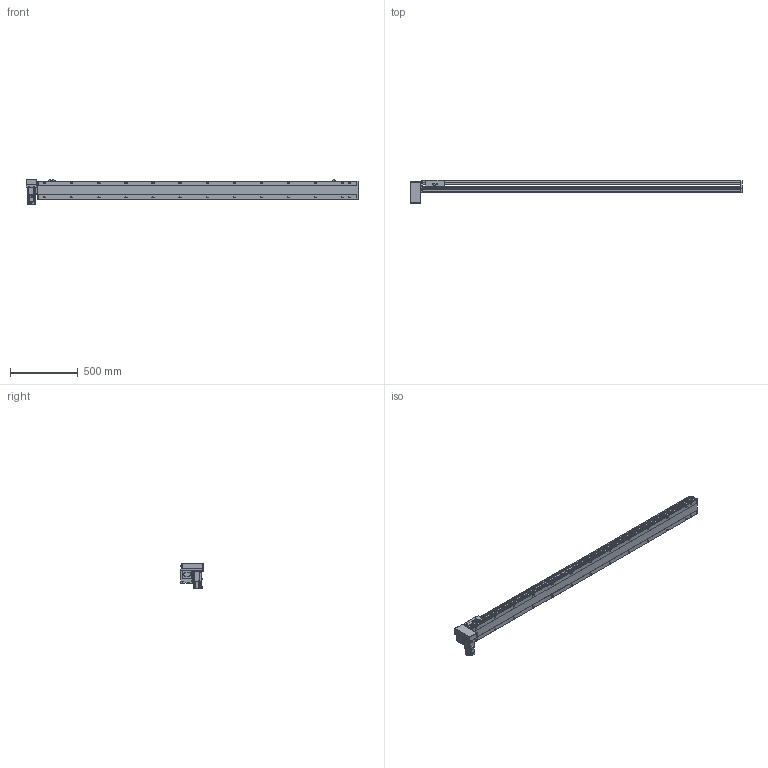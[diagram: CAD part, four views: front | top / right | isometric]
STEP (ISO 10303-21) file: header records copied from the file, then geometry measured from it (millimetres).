
FILE_DESCRIPTION( ( 'STEP AP214' ), '1' );
FILE_NAME( 'x:/temp/worker_6/temp/exporttempdir_5396_183_aEbdE/format_0/PBS140S-P40-S2100-RD-T40-C1-N(0).stp', '2022-06-09T00:47:25', ( 'License CC BY-ND 4.0' ), ( 'CADENAS' ), ' ', 'PARTsolutions', ' ' );
FILE_SCHEMA( ( 'AUTOMOTIVE_DESIGN { 1 0 10303 214 1 1 1 1 }' ) );
Length unit declared in the file: millimetre
Products named in the file (7): PBS140S-P40-S2100-RD-T40-C1-N(0); _PBS140S-S2100()_body; _PBS140ST-RD_motors; _T40-p1; _PBS140S_sliser; _PBS140S_plant; _PBS140S_sensor
Assembly tree (8 placements, depth 2):
  PBS140S-P40-S2100-RD-T40-C1-N(0)
    _PBS140S-S2100()_body
    _PBS140ST-RD_motors
    _T40-p1
    _PBS140S_sliser
    _PBS140S_plant
    _PBS140S_sensor  x3
Bounding box: 2454 x 172.5 x 189.7 mm (x, y, z)
Volume: 12046912 mm3; surface area: 2039446.9 mm2
Topology: 8 solids, 8 shells, 1179 faces, 3111 edges, 2035 vertices
Faces by surface type: plane 732, cylinder 385, cone 52, sphere 8, torus 2
Full cylindrical faces by diameter (mm): 3.242 x4, 4 x2, 4.134 x4, 4.4 x8, 4.5 x2, 4.8 x4, 4.917 x34, 5.5 x7, 6 x2, 7 x28, 7.5 x8, 8 x12, 8.5 x4, 10.5 x26, 14 x1, 30 x2, 50 x2
Entity records: 43546 total; most frequent: CARTESIAN_POINT 7246, DIRECTION 5698, ORIENTED_EDGE 5362, EDGE_CURVE 2681, AXIS2_PLACEMENT_3D 2009, VERTEX_POINT 1873, LINE 1680, VECTOR 1680
